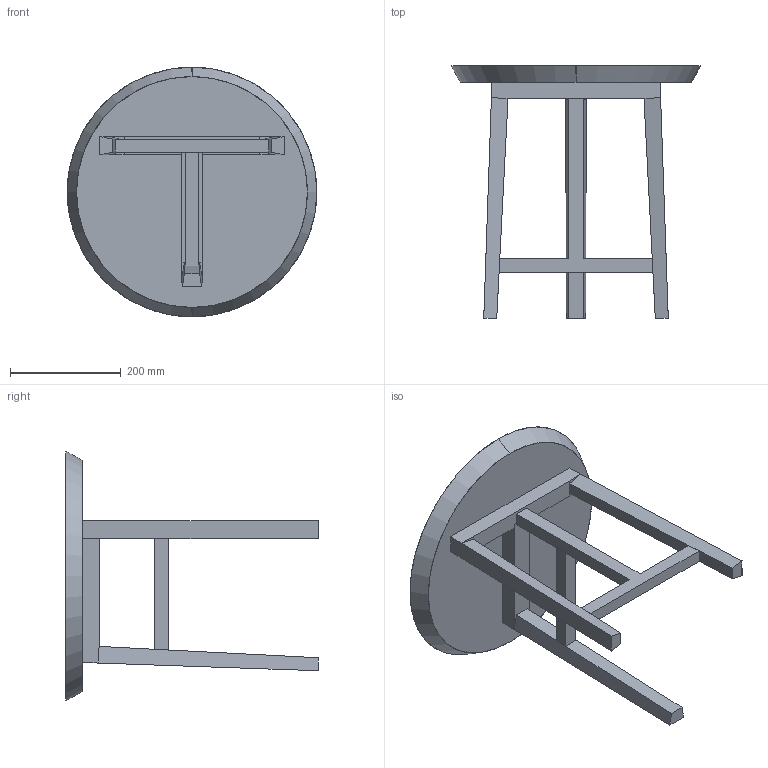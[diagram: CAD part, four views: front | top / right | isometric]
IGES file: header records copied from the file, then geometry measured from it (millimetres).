
Start section: SolidWorks IGES file using analytic representation for surfaces
Global section: file name: C:\Users\Kuma\Box Sync\Neri & Hu\754S Trio Side Table\sales related\3D IGES\754S Trio Side Table_IGES.IGS; native system: SolidWorks 2016; preprocessor: SolidWorks 2016; author: kuma; date: 170102.170004; units: millimetre
Bounding box: 450 x 455 x 450 mm (x, y, z)
Surface area: 579419.7 mm2 (no closed solid volume)
Topology: 0 solids, 0 shells, 51 faces, 392 edges, 392 vertices
Faces by surface type: bspline 49, revolution 2
